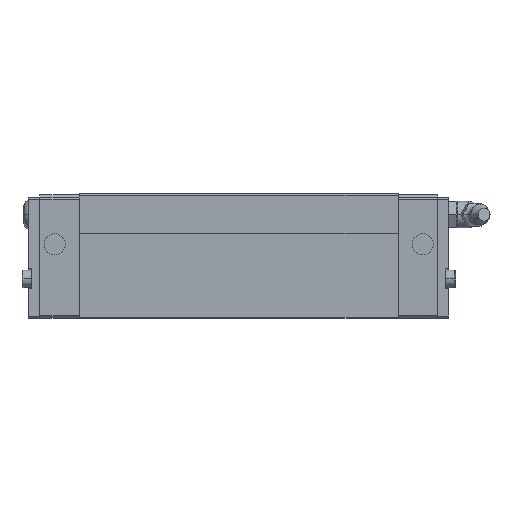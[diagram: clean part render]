
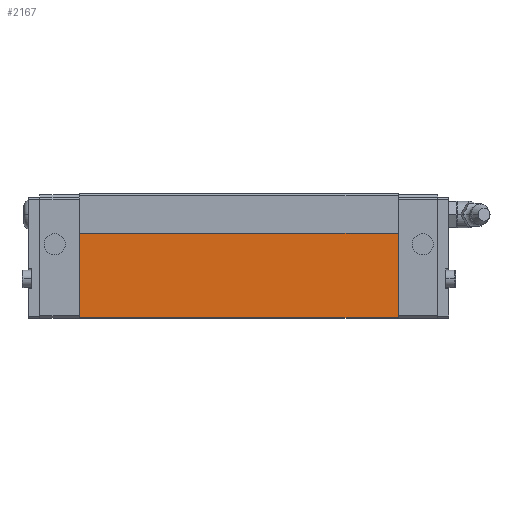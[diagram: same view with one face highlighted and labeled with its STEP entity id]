
A CAD part, left-side view. The second image highlights one B-rep face of the part: STEP entity #2167.
In plain terms, the highlighted planar face has unit normal (-1, 0, 0).
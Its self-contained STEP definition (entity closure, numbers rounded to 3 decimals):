
#1579=VERTEX_POINT('',#4631);
#1603=EDGE_CURVE('',#1579,#2373,#4657,.T.);
#2167=ADVANCED_FACE('',(#5274),#5275,.T.);
#2283=VERTEX_POINT('',#5399);
#2373=VERTEX_POINT('',#5498);
#2723=EDGE_CURVE('',#2283,#1579,#5891,.T.);
#3313=EDGE_CURVE('',#2373,#4343,#6539,.T.);
#4221=EDGE_CURVE('',#2283,#4343,#7553,.T.);
#4343=VERTEX_POINT('',#7693);
#4631=CARTESIAN_POINT('',(-42.2,20.5,9.7));
#4657=LINE('',#8054,#8055);
#5274=FACE_OUTER_BOUND('',#8962,.T.);
#5275=PLANE('',#8963);
#5399=CARTESIAN_POINT('',(-42.2,20.5,44.0));
#5498=CARTESIAN_POINT('',(-42.2,149.3,9.7));
#5891=LINE('',#9849,#9850);
#6539=LINE('',#10822,#10823);
#7553=LINE('',#12358,#12359);
#7693=CARTESIAN_POINT('',(-42.2,149.3,44.0));
#8054=CARTESIAN_POINT('',(-42.2,117.1,9.7));
#8055=VECTOR('',#13015,1.0);
#8962=EDGE_LOOP('',(#13684,#13685,#13686,#13687));
#8963=AXIS2_PLACEMENT_3D('',#13688,#13689,#13690);
#9849=CARTESIAN_POINT('',(-42.2,20.5,24.375));
#9850=VECTOR('',#14457,1.0);
#10822=CARTESIAN_POINT('',(-42.2,149.3,24.375));
#10823=VECTOR('',#15096,1.0);
#12358=CARTESIAN_POINT('',(-42.2,84.9,44.0));
#12359=VECTOR('',#16293,1.0);
#13015=DIRECTION('',(0.0,1.0,-0.0));
#13684=ORIENTED_EDGE('',*,*,#3313,.F.);
#13685=ORIENTED_EDGE('',*,*,#1603,.F.);
#13686=ORIENTED_EDGE('',*,*,#2723,.F.);
#13687=ORIENTED_EDGE('',*,*,#4221,.T.);
#13688=CARTESIAN_POINT('',(-42.2,84.9,14.0));
#13689=DIRECTION('',(-1.0,0.0,0.0));
#13690=DIRECTION('',(0.0,0.0,1.0));
#14457=DIRECTION('',(-0.0,-0.0,-1.0));
#15096=DIRECTION('',(0.0,0.0,1.0));
#16293=DIRECTION('',(0.0,1.0,0.0));
